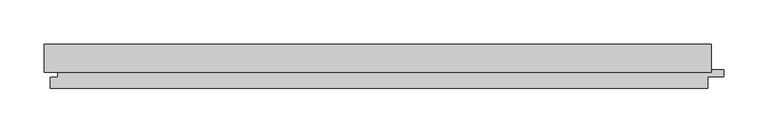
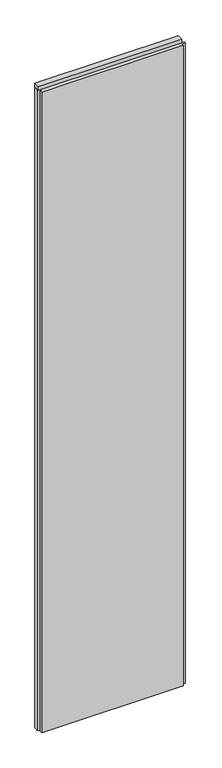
"""IFC4 building model written with IfcOpenShell, lengths in millimetres: plate geometry, Trimo_Qbiss Screen_Normal Panel-VERTICAL : HR - FB-F."""

import ifcopenshell
import ifcopenshell.guid

model = None  # the IFC model being written
_history = None  # IfcOwnerHistory: only IFC2X3 demands one
_inside = {}  # id of a spatial element -> (the spatial element, [elements in it])
_under = {}  # id of a project, library or spatial element -> (it, [spatial elements below it])
_declared = {}  # id of a project -> (the project, [libraries it declares])
_typed = {}  # id of a type object -> (the type object, [elements of that type])
_made_of = {}  # id of a material, layer set ... -> (it, [elements and type objects made of it])


def new_model(schema):
    """Start an empty IFC model of exactly this schema.

    Asked for "IFC4X3", IfcOpenShell would pick the latest addendum, in which some entities
    have other attributes; the version numbers below select the first issue.
    IFC2X3 requires an IfcOwnerHistory on every rooted entity: one is made here for all.
    """
    global model, _history
    if schema == "IFC4X3":
        model = ifcopenshell.file(schema_version=(4, 3, 0, 0))
    else:
        model = ifcopenshell.file(schema=schema)
    _inside.clear()
    _under.clear()
    _declared.clear()
    _typed.clear()
    _made_of.clear()
    _history = None
    if model.schema == "IFC2X3":
        org = make("IfcOrganization", Name="unknown")
        user = make(
            "IfcPersonAndOrganization",
            ThePerson=make("IfcPerson", FamilyName="unknown"),
            TheOrganization=org,
        )
        app = make(
            "IfcApplication",
            ApplicationDeveloper=org,
            Version="unknown",
            ApplicationFullName="unknown",
            ApplicationIdentifier="unknown",
        )
        _history = make(
            "IfcOwnerHistory",
            OwningUser=user,
            OwningApplication=app,
            ChangeAction="ADDED",
            CreationDate=0,
        )
    return model


def make(cls, **values):
    """One entity of the class cls with the attributes given. An attribute that is None is left unset."""
    return model.create_entity(
        cls, **{name: value for name, value in values.items() if value is not None}
    )


def rooted(cls, **values):
    """An entity with a GlobalId (a new one), such as an element, a storey or a relation."""
    return make(cls, GlobalId=ifcopenshell.guid.new(), OwnerHistory=_history, **values)


def si_unit(unit_type, name, prefix=None):
    """IfcSIUnit, for example si_unit("LENGTHUNIT", "METRE", prefix="MILLI")."""
    return make("IfcSIUnit", UnitType=unit_type, Prefix=prefix, Name=name)


def assignment(units):
    """IfcUnitAssignment: the units of a project."""
    return None if units is None else make("IfcUnitAssignment", Units=units)


def point(xyz):
    """IfcCartesianPoint."""
    return None if xyz is None else make("IfcCartesianPoint", Coordinates=xyz)


def direction(xyz):
    """IfcDirection."""
    return None if xyz is None else make("IfcDirection", DirectionRatios=xyz)


def frame(location, z_axis=None, x_axis=None):
    """IfcAxis2Placement3D, a coordinate frame: its origin and axes. An axis left out is left unset."""
    return make(
        "IfcAxis2Placement3D",
        Location=point(location),
        Axis=direction(z_axis),
        RefDirection=direction(x_axis),
    )


def origin():
    """The frame at (0, 0, 0) with its axes left unset."""
    return frame((0.0, 0.0, 0.0))


def place(relative_to, where):
    """IfcLocalPlacement: puts the frame where relative to a parent placement (None: the world)."""
    return make(
        "IfcLocalPlacement", PlacementRelTo=relative_to, RelativePlacement=where
    )


def context(
    kind, dimensions, precision=None, world=None, true_north=None, identifier=None
):
    """IfcGeometricRepresentationContext, for example the 3D "Model" context."""
    return make(
        "IfcGeometricRepresentationContext",
        ContextIdentifier=identifier,
        ContextType=kind,
        CoordinateSpaceDimension=dimensions,
        Precision=precision,
        WorldCoordinateSystem=world,
        TrueNorth=true_north,
    )


def project(units=None, contexts=None):
    """IfcProject with its units and contexts."""
    return rooted(
        "IfcProject",
        Name="project",
        RepresentationContexts=contexts,
        UnitsInContext=assignment(units),
    )


def spatial(cls, under=None, at=None, **own):
    """A site, building, storey or space (cls), placed at a placement, below another one or the project."""
    s = rooted(cls, ObjectPlacement=at, **own)
    if under is not None:
        _under.setdefault(under.id(), (under, []))[1].append(s)
    return s


def polyline(points):
    """IfcPolyline through the points."""
    return make("IfcPolyline", Points=[point(p) for p in points])


def outline(outer, holes=None, kind="AREA"):
    """IfcArbitraryClosedProfileDef: a profile drawn as a closed curve; with holes, ...WithVoids."""
    if holes is None:
        return make("IfcArbitraryClosedProfileDef", ProfileType=kind, OuterCurve=outer)
    return make(
        "IfcArbitraryProfileDefWithVoids",
        ProfileType=kind,
        OuterCurve=outer,
        InnerCurves=holes,
    )


def extrude(swept, where, along, depth):
    """IfcExtrudedAreaSolid: the profile swept, set in the frame where, extruded along a direction by depth."""
    return make(
        "IfcExtrudedAreaSolid",
        SweptArea=swept,
        Position=where,
        ExtrudedDirection=direction(along),
        Depth=depth,
    )


def shape(context_of_items, identifier, shape_type, items):
    """IfcShapeRepresentation: the items that make up one representation, for example the "Body"."""
    return make(
        "IfcShapeRepresentation",
        ContextOfItems=context_of_items,
        RepresentationIdentifier=identifier,
        RepresentationType=shape_type,
        Items=items,
    )


def source(mapping_origin, context_of_items, identifier, shape_type, items):
    """IfcRepresentationMap: a shape defined once, which mapped items show again and again."""
    return make(
        "IfcRepresentationMap",
        MappingOrigin=mapping_origin,
        MappedRepresentation=shape(context_of_items, identifier, shape_type, items),
    )


def transform(
    local_origin,
    x_axis=None,
    y_axis=None,
    z_axis=None,
    scale=None,
    scale2=None,
    scale3=None,
    uniform=True,
):
    """IfcCartesianTransformationOperator3D, or its non-uniform kind. x_axis, y_axis, z_axis: its Axis1, 2, 3."""
    if uniform:
        return make(
            "IfcCartesianTransformationOperator3D",
            Axis1=direction(x_axis),
            Axis2=direction(y_axis),
            LocalOrigin=point(local_origin),
            Scale=scale,
            Axis3=direction(z_axis),
        )
    return make(
        "IfcCartesianTransformationOperator3DnonUniform",
        Axis1=direction(x_axis),
        Axis2=direction(y_axis),
        LocalOrigin=point(local_origin),
        Scale=scale,
        Axis3=direction(z_axis),
        Scale2=scale2,
        Scale3=scale3,
    )


def mapped(mapping_source, mapping_target):
    """IfcMappedItem: shows the shape of a source again, moved by a transform."""
    return make(
        "IfcMappedItem", MappingSource=mapping_source, MappingTarget=mapping_target
    )


def made_of(thing, what):
    """Note that an element or type object is made of a material, layer set ...; save() writes the relation."""
    if what is not None:
        _made_of.setdefault(what.id(), (what, []))[1].append(thing)
    return thing


def element(
    cls,
    number,
    at=None,
    inside=None,
    cuts=None,
    type_object=None,
    material=None,
    context=None,
    identifier="Body",
    shape_type=None,
    held_by="IfcProductDefinitionShape",
    body=None,
    shapes=None,
    **own,
):
    """One element of the class cls, such as IfcWall. Its Tag is "e" and its number.

    at: its placement. inside: the storey or other place that contains it. cuts: it is an
    opening in that element (IfcRelVoidsElement). A single representation is given by context,
    identifier, shape_type and body (its items); several are given by shapes. held_by: the class
    of the entity that holds the representations. save() writes the other relations.
    """
    e = rooted(cls, Tag="e%d" % number, ObjectPlacement=at, **own)
    if body is not None:
        shapes = [shape(context, identifier, shape_type, body)]
    if shapes is not None:
        e.Representation = make(held_by, Representations=shapes)
    if inside is not None:
        _inside.setdefault(inside.id(), (inside, []))[1].append(e)
    if cuts is not None:
        rooted(
            "IfcRelVoidsElement", RelatingBuildingElement=cuts, RelatedOpeningElement=e
        )
    if type_object is not None:
        _typed.setdefault(type_object.id(), (type_object, []))[1].append(e)
    return made_of(e, material)


def aggregate(whole, parts):
    """IfcRelAggregates: a whole, such as a stair, and the parts it consists of."""
    return rooted("IfcRelAggregates", RelatingObject=whole, RelatedObjects=parts)


def save(model, path):
    """Write the relations noted so far, then the file.

    IfcRelAggregates (storeys below a building ...), IfcRelContainedInSpatialStructure (elements
    in a storey), IfcRelDefinesByType, IfcRelAssociatesMaterial and IfcRelDeclares: one each for
    every whole, place, type object, material and project.
    """
    for whole, parts in _under.values():
        aggregate(whole, parts)
    for where, things in _inside.values():
        rooted(
            "IfcRelContainedInSpatialStructure",
            RelatedElements=things,
            RelatingStructure=where,
        )
    for kind, things in _typed.values():
        rooted("IfcRelDefinesByType", RelatedObjects=things, RelatingType=kind)
    for what, things in _made_of.values():
        rooted("IfcRelAssociatesMaterial", RelatedObjects=things, RelatingMaterial=what)
    for by, libraries in _declared.values():
        rooted("IfcRelDeclares", RelatingContext=by, RelatedDefinitions=libraries)
    model.write(path)


def plate_39651a85(model_context):
    return source(origin(), model_context, "Body", "SweptSolid", [
        extrude(outline(polyline([(-425.0, 93.9), (-425.0, 126.0), (333.0, 126.0), (333.0, 93.9), (-425.0, 93.9)])), frame((0.0, 0.0, 3590.5), z_axis=(0.0, 0.0, 1.0), x_axis=(1.0, 0.0, 0.0)), (0.0, 0.0, 1.0), 19.0),
        extrude(outline(polyline([(329.0, 97.0), (347.5, 97.0), (347.5, 89.0), (329.0, 89.0), (329.0, 76.0), (-418.0, 76.0), (-418.0, 88.0), (-409.5, 88.0), (-409.5, 98.0), (-425.0, 98.0), (-425.0, 126.0), (329.0, 126.0), (329.0, 97.0)])), frame((0.0, 0.0, 12.5), z_axis=(0.0, 0.0, 1.0), x_axis=(1.0, 0.0, 0.0)), (0.0, 0.0, 1.0), 3575.0),
    ])


if __name__ == "__main__":
    model = new_model("IFC4")
    model_context = context("Model", 3, world=origin())
    ifc_project = project(units=[si_unit("LENGTHUNIT", "METRE", prefix="MILLI")], contexts=[model_context])
    site = spatial("IfcSite", under=ifc_project)
    building = spatial("IfcBuilding", under=site)
    placement = place(None, origin())
    plate_shape = plate_39651a85(model_context)
    element("IfcPlate", 1, ObjectType="Trimo_Qbiss Screen_Normal Panel-VERTICAL : HR - FB-F", at=placement, inside=building, context=model_context, shape_type="MappedRepresentation", body=[
        mapped(plate_shape, transform((0.0, 0.0, 0.0), x_axis=(1.0, 0.0, 0.0), y_axis=(0.0, 1.0, 0.0), z_axis=(0.0, 0.0, 1.0))),
    ])
    save(model, "model.ifc")
